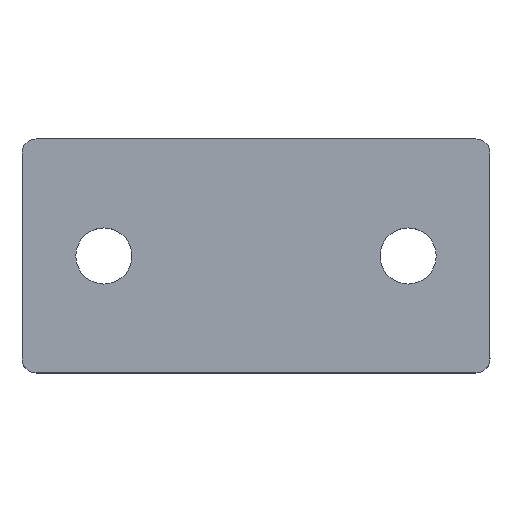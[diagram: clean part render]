
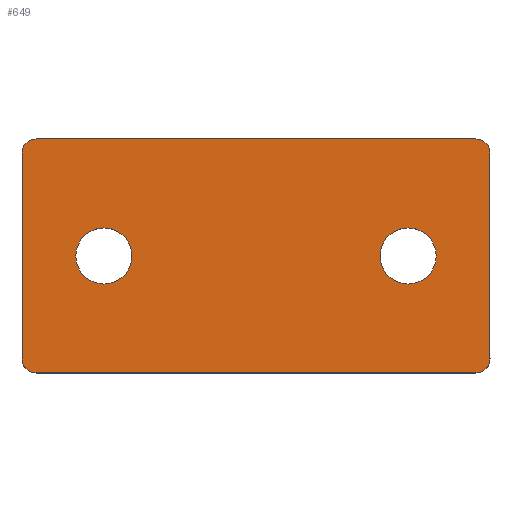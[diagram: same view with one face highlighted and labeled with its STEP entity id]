
A CAD part, top view. The second image highlights one B-rep face of the part: STEP entity #649.
In plain terms, the highlighted planar face has unit normal (0, 0, 1).
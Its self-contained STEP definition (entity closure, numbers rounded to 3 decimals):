
#306=VECTOR('',#516,1.);
#309=VECTOR('',#521,1.);
#310=VECTOR('',#524,1.);
#311=VECTOR('',#527,1.);
#322=LINE('',#583,#306);
#325=LINE('',#589,#309);
#326=LINE('',#593,#310);
#327=LINE('',#597,#311);
#336=PLANE('',#626);
#356=ORIENTED_EDGE('',*,*,#442,.T.);
#357=ORIENTED_EDGE('',*,*,#443,.T.);
#358=ORIENTED_EDGE('',*,*,#444,.T.);
#359=ORIENTED_EDGE('',*,*,#445,.T.);
#360=ORIENTED_EDGE('',*,*,#446,.T.);
#361=ORIENTED_EDGE('',*,*,#447,.T.);
#362=ORIENTED_EDGE('',*,*,#439,.T.);
#363=ORIENTED_EDGE('',*,*,#448,.T.);
#364=ORIENTED_EDGE('',*,*,#429,.F.);
#365=ORIENTED_EDGE('',*,*,#449,.F.);
#397=CIRCLE('',#618,6.);
#403=CIRCLE('',#627,3.);
#404=CIRCLE('',#628,3.);
#405=CIRCLE('',#629,3.);
#406=CIRCLE('',#630,3.);
#407=CIRCLE('',#631,6.);
#409=VERTEX_POINT('',#559);
#419=VERTEX_POINT('',#581);
#420=VERTEX_POINT('',#582);
#421=VERTEX_POINT('',#587);
#422=VERTEX_POINT('',#588);
#423=VERTEX_POINT('',#590);
#424=VERTEX_POINT('',#592);
#425=VERTEX_POINT('',#594);
#426=VERTEX_POINT('',#596);
#427=VERTEX_POINT('',#600);
#429=EDGE_CURVE('',#409,#409,#397,.T.);
#439=EDGE_CURVE('',#419,#420,#322,.T.);
#442=EDGE_CURVE('',#421,#422,#325,.T.);
#443=EDGE_CURVE('',#422,#423,#403,.T.);
#444=EDGE_CURVE('',#423,#424,#326,.T.);
#445=EDGE_CURVE('',#424,#425,#404,.T.);
#446=EDGE_CURVE('',#425,#426,#327,.T.);
#447=EDGE_CURVE('',#426,#419,#405,.T.);
#448=EDGE_CURVE('',#420,#421,#406,.T.);
#449=EDGE_CURVE('',#427,#427,#407,.T.);
#462=EDGE_LOOP('',(#356,#357,#358,#359,#360,#361,#362,#363));
#463=EDGE_LOOP('',(#364));
#464=EDGE_LOOP('',(#365));
#480=FACE_BOUND('',#462,.T.);
#481=FACE_BOUND('',#463,.T.);
#482=FACE_BOUND('',#464,.T.);
#496=DIRECTION('',(0.,0.,1.));
#497=DIRECTION('',(0.,-6.,0.));
#516=DIRECTION('',(94.,0.,0.));
#519=DIRECTION('',(0.,0.,1.));
#520=DIRECTION('',(0.,-1.,0.));
#521=DIRECTION('',(0.,44.,0.));
#522=DIRECTION('',(0.,0.,1.));
#523=DIRECTION('',(0.,-3.,0.));
#524=DIRECTION('',(-94.,0.,0.));
#525=DIRECTION('',(0.,0.,1.));
#526=DIRECTION('',(0.,-3.,0.));
#527=DIRECTION('',(0.,-44.,0.));
#528=DIRECTION('',(0.,0.,1.));
#529=DIRECTION('',(0.,-3.,0.));
#530=DIRECTION('',(0.,0.,1.));
#531=DIRECTION('',(0.,-3.,0.));
#532=DIRECTION('',(0.,0.,1.));
#533=DIRECTION('',(0.,-6.,0.));
#559=CARTESIAN_POINT('',(32.5,-6.,5.));
#560=CARTESIAN_POINT('',(32.5,0.,5.));
#581=CARTESIAN_POINT('',(-47.,-25.,5.));
#582=CARTESIAN_POINT('',(47.,-25.,5.));
#583=CARTESIAN_POINT('',(-47.,-25.,5.));
#586=CARTESIAN_POINT('',(0.,0.,5.));
#587=CARTESIAN_POINT('',(50.,-22.,5.));
#588=CARTESIAN_POINT('',(50.,22.,5.));
#589=CARTESIAN_POINT('',(50.,-22.,5.));
#590=CARTESIAN_POINT('',(47.,25.,5.));
#591=CARTESIAN_POINT('',(47.,22.,5.));
#592=CARTESIAN_POINT('',(-47.,25.,5.));
#593=CARTESIAN_POINT('',(47.,25.,5.));
#594=CARTESIAN_POINT('',(-50.,22.,5.));
#595=CARTESIAN_POINT('',(-47.,22.,5.));
#596=CARTESIAN_POINT('',(-50.,-22.,5.));
#597=CARTESIAN_POINT('',(-50.,22.,5.));
#598=CARTESIAN_POINT('',(-47.,-22.,5.));
#599=CARTESIAN_POINT('',(47.,-22.,5.));
#600=CARTESIAN_POINT('',(-32.5,-6.,5.));
#601=CARTESIAN_POINT('',(-32.5,0.,5.));
#618=AXIS2_PLACEMENT_3D('',#560,#496,#497);
#626=AXIS2_PLACEMENT_3D('',#586,#519,#520);
#627=AXIS2_PLACEMENT_3D('',#591,#522,#523);
#628=AXIS2_PLACEMENT_3D('',#595,#525,#526);
#629=AXIS2_PLACEMENT_3D('',#598,#528,#529);
#630=AXIS2_PLACEMENT_3D('',#599,#530,#531);
#631=AXIS2_PLACEMENT_3D('',#601,#532,#533);
#649=ADVANCED_FACE('',(#480,#481,#482),#336,.T.);
